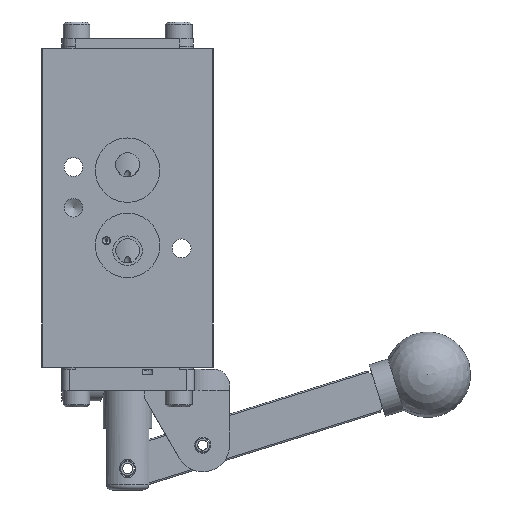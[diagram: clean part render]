
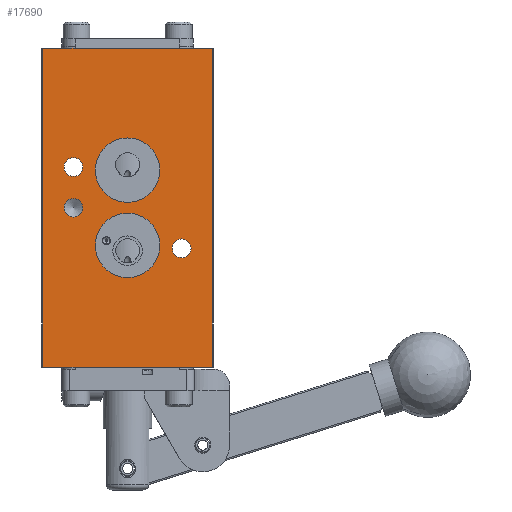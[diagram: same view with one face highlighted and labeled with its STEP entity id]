
A CAD part, front view. The second image highlights one B-rep face of the part: STEP entity #17690.
In plain terms, the highlighted planar face has unit normal (0, -1, 0).
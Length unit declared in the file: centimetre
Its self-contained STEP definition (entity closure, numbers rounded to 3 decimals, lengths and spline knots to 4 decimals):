
#600=LINE('',#30708,#1681);
#607=LINE('',#30741,#1688);
#866=LINE('',#32937,#1947);
#869=LINE('',#32943,#1950);
#1681=VECTOR('',#22637,5.0006);
#1688=VECTOR('',#22664,5.0006);
#1947=VECTOR('',#23485,9.4209);
#1950=VECTOR('',#23494,9.4209);
#3289=FACE_BOUND('',#5779,.T.);
#3290=FACE_BOUND('',#5780,.T.);
#3291=FACE_BOUND('',#5781,.T.);
#3292=FACE_BOUND('',#5782,.T.);
#3293=FACE_BOUND('',#5783,.T.);
#4468=FACE_OUTER_BOUND('',#5778,.T.);
#5778=EDGE_LOOP('',(#14560,#14561,#14562,#14563));
#5779=EDGE_LOOP('',(#14564));
#5780=EDGE_LOOP('',(#14565));
#5781=EDGE_LOOP('',(#14566));
#5782=EDGE_LOOP('',(#14567));
#5783=EDGE_LOOP('',(#14568));
#6723=CIRCLE('',#19365,0.9525);
#6725=CIRCLE('',#19369,0.9525);
#6727=CIRCLE('',#19374,0.2756);
#6728=CIRCLE('',#19376,0.2778);
#6729=CIRCLE('',#19378,0.2778);
#7791=VERTEX_POINT('',#30694);
#7797=VERTEX_POINT('',#30706);
#7811=VERTEX_POINT('',#30737);
#7813=VERTEX_POINT('',#30740);
#8153=VERTEX_POINT('',#32890);
#8155=VERTEX_POINT('',#32896);
#8157=VERTEX_POINT('',#32903);
#8158=VERTEX_POINT('',#32906);
#8159=VERTEX_POINT('',#32909);
#9870=EDGE_CURVE('',#7791,#7797,#600,.T.);
#9885=EDGE_CURVE('',#7813,#7811,#607,.T.);
#10349=EDGE_CURVE('',#8153,#8153,#6723,.T.);
#10351=EDGE_CURVE('',#8155,#8155,#6725,.T.);
#10353=EDGE_CURVE('',#8157,#8157,#6727,.T.);
#10354=EDGE_CURVE('',#8158,#8158,#6728,.T.);
#10355=EDGE_CURVE('',#8159,#8159,#6729,.T.);
#10363=EDGE_CURVE('',#7791,#7811,#866,.T.);
#10366=EDGE_CURVE('',#7813,#7797,#869,.T.);
#14560=ORIENTED_EDGE('',*,*,#10363,.F.);
#14561=ORIENTED_EDGE('',*,*,#9870,.T.);
#14562=ORIENTED_EDGE('',*,*,#10366,.F.);
#14563=ORIENTED_EDGE('',*,*,#9885,.T.);
#14564=ORIENTED_EDGE('',*,*,#10349,.T.);
#14565=ORIENTED_EDGE('',*,*,#10351,.T.);
#14566=ORIENTED_EDGE('',*,*,#10353,.T.);
#14567=ORIENTED_EDGE('',*,*,#10354,.T.);
#14568=ORIENTED_EDGE('',*,*,#10355,.T.);
#15639=PLANE('',#19403);
#17690=ADVANCED_FACE('',(#4468,#3289,#3290,#3291,#3292,#3293),#15639,.T.);
#19365=AXIS2_PLACEMENT_3D('',#32891,#23419,#23420);
#19369=AXIS2_PLACEMENT_3D('',#32897,#23427,#23428);
#19374=AXIS2_PLACEMENT_3D('',#32904,#23437,#23438);
#19376=AXIS2_PLACEMENT_3D('',#32907,#23441,#23442);
#19378=AXIS2_PLACEMENT_3D('',#32910,#23445,#23446);
#19403=AXIS2_PLACEMENT_3D('',#32946,#23499,#23500);
#22637=DIRECTION('',(1.,0.,0.));
#22664=DIRECTION('',(-1.,0.,0.));
#23419=DIRECTION('center_axis',(0.,1.,0.));
#23420=DIRECTION('ref_axis',(-1.,0.,0.));
#23427=DIRECTION('center_axis',(0.,1.,0.));
#23428=DIRECTION('ref_axis',(-1.,0.,0.));
#23437=DIRECTION('center_axis',(0.,1.,0.));
#23438=DIRECTION('ref_axis',(1.,0.,0.));
#23441=DIRECTION('center_axis',(0.,1.,0.));
#23442=DIRECTION('ref_axis',(1.,0.,0.));
#23445=DIRECTION('center_axis',(0.,1.,0.));
#23446=DIRECTION('ref_axis',(1.,0.,0.));
#23485=DIRECTION('',(0.,0.,1.));
#23494=DIRECTION('',(0.,0.,-1.));
#23499=DIRECTION('center_axis',(0.,-1.,0.));
#23500=DIRECTION('ref_axis',(0.,0.,-1.));
#30694=CARTESIAN_POINT('',(-2.5003,-1.6358,-4.7104));
#30706=CARTESIAN_POINT('',(2.5003,-1.6358,-4.7104));
#30708=CARTESIAN_POINT('',(-2.54,-1.6358,-4.7104));
#30737=CARTESIAN_POINT('',(-2.5003,-1.6358,4.7104));
#30740=CARTESIAN_POINT('',(2.5003,-1.6358,4.7104));
#30741=CARTESIAN_POINT('',(-2.54,-1.6358,4.7104));
#32890=CARTESIAN_POINT('',(0.9525,-1.6358,1.1113));
#32891=CARTESIAN_POINT('Origin',(0.,-1.6358,1.1113));
#32896=CARTESIAN_POINT('',(0.9525,-1.6358,-1.1113));
#32897=CARTESIAN_POINT('Origin',(0.,-1.6358,-1.1113));
#32903=CARTESIAN_POINT('',(-1.3246,-1.6358,-0.0013));
#32904=CARTESIAN_POINT('Origin',(-1.6002,-1.6358,-0.0013));
#32906=CARTESIAN_POINT('',(1.3224,-1.6358,-1.2002));
#32907=CARTESIAN_POINT('Origin',(1.6002,-1.6358,-1.2002));
#32909=CARTESIAN_POINT('',(-1.878,-1.6358,1.2002));
#32910=CARTESIAN_POINT('Origin',(-1.6002,-1.6358,1.2002));
#32937=CARTESIAN_POINT('',(-2.5003,-1.6358,0.));
#32943=CARTESIAN_POINT('',(2.5003,-1.6358,0.));
#32946=CARTESIAN_POINT('Origin',(2.54,-1.6358,0.));
